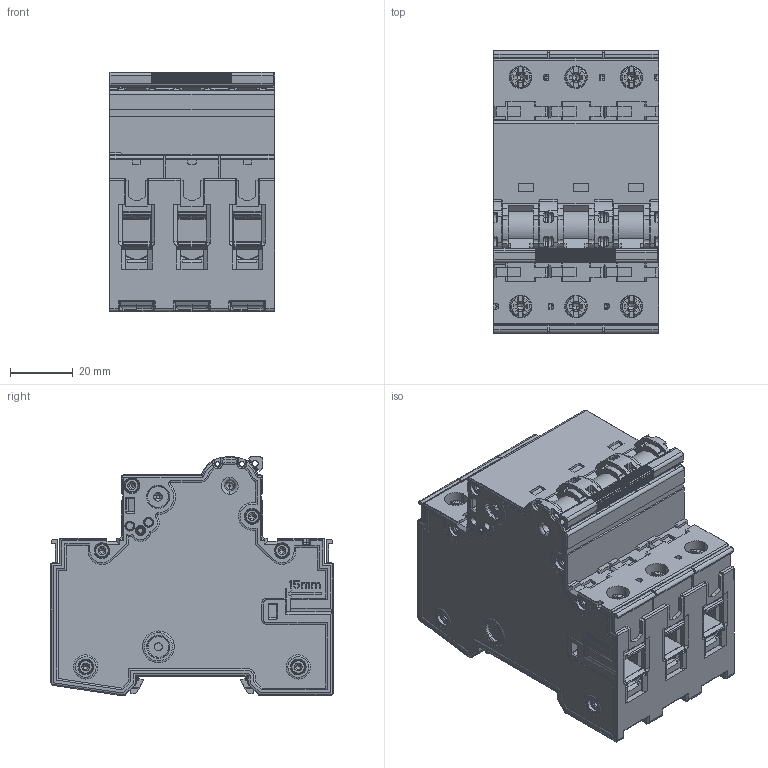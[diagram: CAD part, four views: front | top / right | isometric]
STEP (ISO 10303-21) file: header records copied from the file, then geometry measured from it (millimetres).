
FILE_DESCRIPTION (( 'STEP AP214' ), '1' );
FILE_NAME ('LTE-3.STEP', '2018-09-05T10:25:16', ( '' ), ( '' ), 'SwSTEP 2.0', 'SolidWorks 2015', '' );
FILE_SCHEMA (( 'AUTOMOTIVE_DESIGN' ));
Length unit declared in the file: millimetre
Products named in the file (1): LTE-3
Bounding box: 52.8 x 89.8 x 76.07 mm (x, y, z)
Volume: 255931.5 mm3; surface area: 47670.7 mm2
Topology: 7 solids, 7 shells, 3700 faces, 10652 edges, 6984 vertices
Faces by surface type: plane 2210, cylinder 818, bspline 251, cone 249, torus 130, sphere 42
Entity records: 184474 total; most frequent: CARTESIAN_POINT 54228, ORIENTED_EDGE 21170, DIRECTION 14781, EDGE_CURVE 10585, VERTEX_POINT 6972, LINE 6291, VECTOR 6291, AXIS2_PLACEMENT_3D 4245
